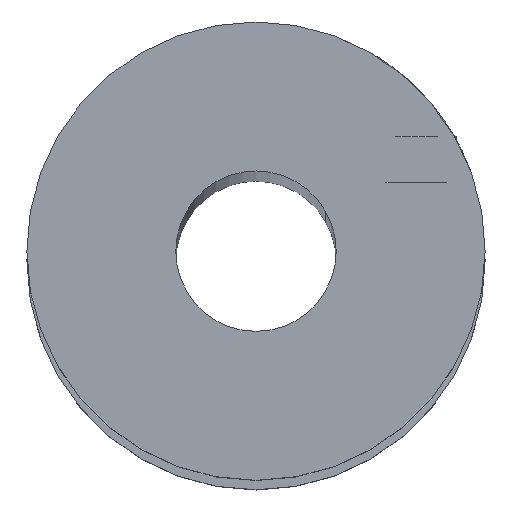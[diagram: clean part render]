
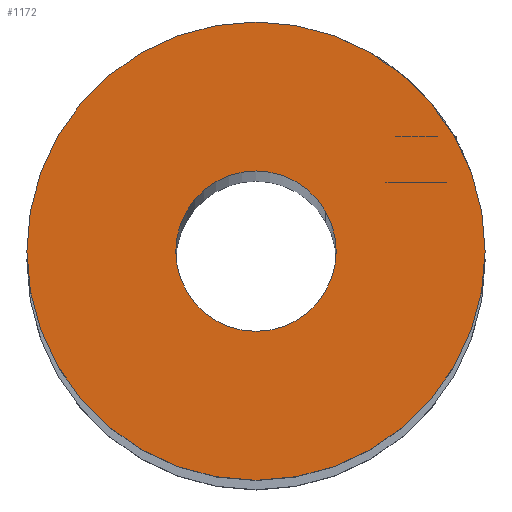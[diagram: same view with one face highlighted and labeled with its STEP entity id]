
A CAD part, top view. The second image highlights one B-rep face of the part: STEP entity #1172.
In plain terms, the highlighted planar face has unit normal (0, 0, 1).
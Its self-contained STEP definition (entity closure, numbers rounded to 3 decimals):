
#61 = DIRECTION ( 'NONE',  ( -1., 0., 0. ) ) ;
#90 = CARTESIAN_POINT ( 'NONE',  ( 650., 0., 716.5 ) ) ;
#195 = DIRECTION ( 'NONE',  ( 0., -1., 0. ) ) ;
#336 = ORIENTED_EDGE ( 'NONE', *, *, #483, .T. ) ;
#367 = EDGE_LOOP ( 'NONE', ( #336, #2045 ) ) ;
#483 = EDGE_CURVE ( 'NONE', #1560, #1132, #1000, .T. ) ;
#575 = ORIENTED_EDGE ( 'NONE', *, *, #973, .F. ) ;
#691 = CARTESIAN_POINT ( 'NONE',  ( 650., 0., 716.5 ) ) ;
#728 = CARTESIAN_POINT ( 'NONE',  ( 650., 20., 716.5 ) ) ;
#733 = ORIENTED_EDGE ( 'NONE', *, *, #1862, .F. ) ;
#744 = CIRCLE ( 'NONE', #2197, 20. ) ;
#759 = CARTESIAN_POINT ( 'NONE',  ( 643.938, -3.5, 716.5 ) ) ;
#787 = DIRECTION ( 'NONE',  ( 0., -1., 0. ) ) ;
#803 = EDGE_LOOP ( 'NONE', ( #733, #575 ) ) ;
#817 = PLANE ( 'NONE',  #1563 ) ;
#853 = VERTEX_POINT ( 'NONE', #2245 ) ;
#880 = VERTEX_POINT ( 'NONE', #728 ) ;
#927 = CARTESIAN_POINT ( 'NONE',  ( 650., 0., 716.5 ) ) ;
#973 = EDGE_CURVE ( 'NONE', #853, #880, #1112, .T. ) ;
#985 = CARTESIAN_POINT ( 'NONE',  ( 660., 0., 716.5 ) ) ;
#1000 = CIRCLE ( 'NONE', #1458, 7. ) ;
#1014 = EDGE_CURVE ( 'NONE', #1132, #1560, #1793, .T. ) ;
#1016 = DIRECTION ( 'NONE',  ( 0., -1., 0. ) ) ;
#1084 = CARTESIAN_POINT ( 'NONE',  ( 650., 0., 716.5 ) ) ;
#1103 = DIRECTION ( 'NONE',  ( 0., 0., -1. ) ) ;
#1112 = CIRCLE ( 'NONE', #1146, 20. ) ;
#1132 = VERTEX_POINT ( 'NONE', #1983 ) ;
#1146 = AXIS2_PLACEMENT_3D ( 'NONE', #1084, #1240, #195 ) ;
#1172 = ADVANCED_FACE ( 'NONE', ( #2113, #1243 ), #817, .T. ) ;
#1175 = AXIS2_PLACEMENT_3D ( 'NONE', #927, #1103, #61 ) ;
#1240 = DIRECTION ( 'NONE',  ( 0., 0., -1. ) ) ;
#1243 = FACE_BOUND ( 'NONE', #367, .T. ) ;
#1458 = AXIS2_PLACEMENT_3D ( 'NONE', #90, #2017, #1678 ) ;
#1560 = VERTEX_POINT ( 'NONE', #759 ) ;
#1563 = AXIS2_PLACEMENT_3D ( 'NONE', #985, #1999, #787 ) ;
#1678 = DIRECTION ( 'NONE',  ( -1., 0., 0. ) ) ;
#1793 = CIRCLE ( 'NONE', #1175, 7. ) ;
#1862 = EDGE_CURVE ( 'NONE', #880, #853, #744, .T. ) ;
#1983 = CARTESIAN_POINT ( 'NONE',  ( 656.062, 3.5, 716.5 ) ) ;
#1999 = DIRECTION ( 'NONE',  ( 0., 0., 1. ) ) ;
#2017 = DIRECTION ( 'NONE',  ( 0., 0., -1. ) ) ;
#2045 = ORIENTED_EDGE ( 'NONE', *, *, #1014, .T. ) ;
#2113 = FACE_OUTER_BOUND ( 'NONE', #803, .T. ) ;
#2197 = AXIS2_PLACEMENT_3D ( 'NONE', #691, #2226, #1016 ) ;
#2226 = DIRECTION ( 'NONE',  ( 0., 0., -1. ) ) ;
#2245 = CARTESIAN_POINT ( 'NONE',  ( 650., -20., 716.5 ) ) ;
